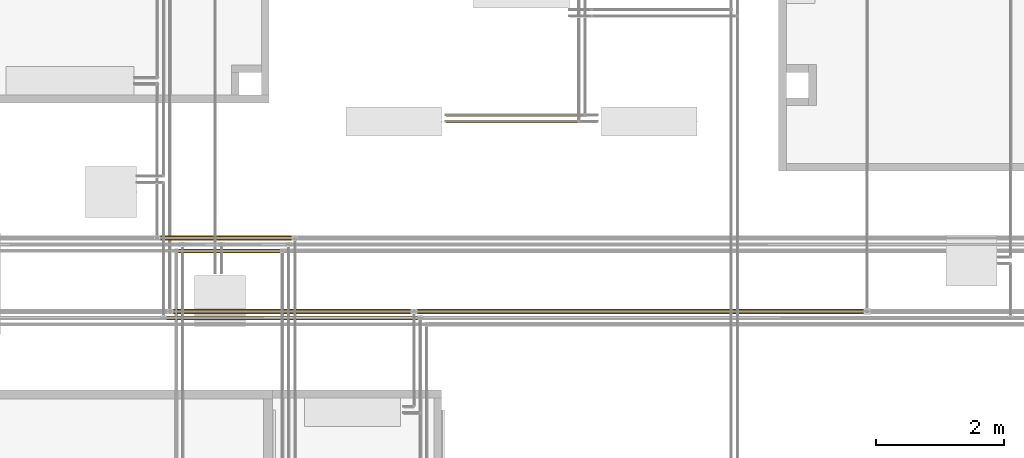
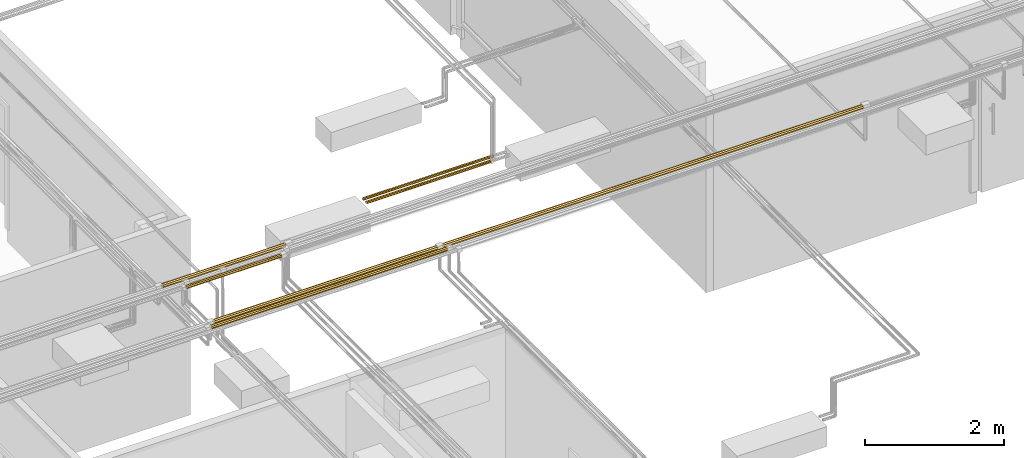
# One storey, part 97 of 652: 7 coverings.
"""IFC2X3 building model written with IfcOpenShell, lengths in millimetres."""

from ifc_helpers import new_model, entity, si_unit, converted_unit, direction, frame, origin, place, context, subcontext, project, spatial, faceted_brep, material, type_object, element, save


model = new_model("IFC2X3")

# Units and contexts
model_context = context("Model", 3, precision=0.01, world=frame((0.0, 0.0, 308426.39999999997)), true_north=direction((6.123233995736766e-17, 1.0)))
plan_context = context("Plan", 3, precision=0.01, world=frame((0.0, 0.0, 308426.39999999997)), true_north=direction((6.123233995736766e-17, 1.0)))
body_context = subcontext(model_context, "Body", "Model", "MODEL_VIEW")
ifc_project = project(units=[si_unit("LENGTHUNIT", "METRE", prefix="MILLI"), si_unit("AREAUNIT", "SQUARE_METRE"), si_unit("VOLUMEUNIT", "CUBIC_METRE"), converted_unit("PLANEANGLEUNIT", "DEGREE", entity("IfcPlaneAngleMeasure", 0.017453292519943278), si_unit("PLANEANGLEUNIT", "RADIAN"), dimensions=[0, 0, 0, 0, 0, 0, 0])], contexts=[model_context, plan_context])

# Site, building, storey
site_placement = place(None, origin())
site = spatial("IfcSite", under=ifc_project, at=site_placement, Name="Default", CompositionType="ELEMENT")
building_placement = place(site_placement, origin())
building = spatial("IfcBuilding", under=site, at=building_placement, CompositionType="ELEMENT")
storey_placement = place(building_placement, frame((0.0, 0.0, 1730.6999999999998)))
storey = spatial("IfcBuildingStorey", under=building, at=storey_placement, Name="EG_Produktion_FFB", CompositionType="ELEMENT", Elevation=1730.6999999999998)

# Coverings
ifc_material = material(Name="Dämmung - Armaflex-Schlauch")
covering_type = type_object("IfcCoveringType", Name="Rohrdämmung außen:Armaflex-Schlauch", PredefinedType="INSULATION")
covering_1_placement = place(storey_placement, frame((33765.74774999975, 59815.1172277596, 3865.1172277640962)))
element("IfcCovering", 1, at=covering_1_placement, inside=storey, type_object=covering_type, material=ifc_material, Name="Rohrdämmung außen:Armaflex-Schlauch", ObjectType="Rohrdämmung außen:Armaflex-Schlauch", PredefinedType="INSULATION", context=body_context, shape_type="Brep", body=[
    faceted_brep([(3928.5045000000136, 68.17027223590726, 34.88277223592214), (3928.5045000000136, 66.39261192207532, 39.17442387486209), (3928.5045000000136, 63.295430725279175, 46.651680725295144), (3928.5045000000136, 60.8580099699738, 52.536134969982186), (3928.5045000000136, 58.420589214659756, 58.42058921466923), (3928.5045000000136, 52.53613496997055, 60.858009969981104), (3928.5045000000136, 46.65168072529, 63.29543072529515), (3928.5045000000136, 40.76722648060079, 65.7328514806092), (3928.5045000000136, 34.88277223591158, 68.17027223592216), (3928.5045000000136, 30.59112059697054, 66.39261192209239), (3928.5045000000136, 23.113863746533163, 63.29543072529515), (3928.5045000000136, 17.229409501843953, 60.85800996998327), (3928.5045000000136, 11.344955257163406, 58.42058921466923), (3928.5045000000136, 8.907534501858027, 52.536134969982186), (3928.5045000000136, 6.470113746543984, 46.651680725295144), (3928.5045000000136, 4.032692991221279, 40.7672264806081), (3928.5045000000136, 1.5952722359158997, 34.88277223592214), (3928.5045000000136, 4.032692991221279, 28.998317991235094), (3928.5045000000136, 6.470113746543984, 23.113863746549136), (3928.5045000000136, 8.907534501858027, 17.22940950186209), (3928.5045000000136, 11.344955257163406, 11.344955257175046), (3928.5045000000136, 17.229409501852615, 8.907534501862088), (3928.5045000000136, 23.113863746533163, 6.470113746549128), (3928.5045000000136, 28.998317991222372, 4.032692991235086), (3928.5045000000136, 34.88277223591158, 1.5952722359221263), (3928.5045000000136, 39.17442387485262, 3.3729325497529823), (3928.5045000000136, 46.65168072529, 6.470113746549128), (3928.5045000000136, 52.53613496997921, 8.907534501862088), (3928.5045000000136, 58.420589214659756, 11.344955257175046), (3928.5045000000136, 60.85800996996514, 17.22940950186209), (3928.5045000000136, 63.295430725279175, 23.113863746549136), (3928.5045000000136, 65.73285148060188, 28.998317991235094), (0.0, 52.53613496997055, 8.90753450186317), (0.0, 46.65168072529, 6.470113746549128), (0.0, 40.76722648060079, 4.032692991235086), (0.0, 34.88277223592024, 1.595272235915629), (0.0, 26.299468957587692, 5.1505928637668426), (0.0, 18.822212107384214, 8.247774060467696), (0.0, 11.344955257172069, 11.34495525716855), (0.0, 8.907534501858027, 17.229409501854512), (0.0, 6.470113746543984, 23.113863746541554), (0.0, 4.0326929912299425, 28.9983179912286), (0.0, 1.5952722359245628, 34.88277223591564), (0.0, 5.150592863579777, 43.466075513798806), (0.0, 8.247774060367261, 50.94333236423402), (0.0, 11.344955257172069, 58.42058921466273), (0.0, 17.229409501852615, 60.85800996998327), (0.0, 23.113863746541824, 63.295430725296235), (0.0, 28.998317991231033, 65.7328514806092), (0.0, 34.88277223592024, 68.17027223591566), (0.0, 43.466075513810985, 64.61495160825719), (0.0, 50.9433323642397, 61.517770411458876), (0.0, 58.42058921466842, 58.42058921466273), (0.0, 60.8580099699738, 52.536134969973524), (0.0, 63.295430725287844, 46.65168072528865), (0.0, 65.73285148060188, 40.7672264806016), (0.0, 68.17027223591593, 34.88277223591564), (0.0, 64.61495160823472, 26.299468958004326), (0.0, 61.51777041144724, 18.822212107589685), (0.0, 58.42058921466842, 11.34495525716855)], [[[0, 1, 2, 3, 4, 5, 6, 7, 8, 9, 10, 11, 12, 13, 14, 15, 16, 17, 18, 19, 20, 21, 22, 23, 24, 25, 26, 27, 28, 29, 30, 31]], [[32, 33, 34, 35, 36, 37, 38, 39, 40, 41, 42, 43, 44, 45, 46, 47, 48, 49, 50, 51, 52, 53, 54, 55, 56, 57, 58, 59]], [[40, 39, 38, 20, 19, 18, 17, 16, 42, 41]], [[36, 35, 24, 23, 22, 21, 20, 38, 37]], [[33, 32, 59, 28, 27, 26, 25, 24, 35, 34]], [[28, 59, 58, 57, 56, 0, 31, 30, 29]], [[54, 53, 52, 4, 3, 2, 1, 0, 56, 55]], [[4, 52, 51, 50, 49, 8, 7, 6, 5]], [[47, 46, 45, 12, 11, 10, 9, 8, 49, 48]], [[12, 45, 44, 43, 42, 16, 15, 14, 13]]]),
])
covering_2_placement = place(storey_placement, frame((33957.04824999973, 60868.292227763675, 3868.292227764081)))
element("IfcCovering", 2, at=covering_2_placement, inside=storey, type_object=covering_type, material=ifc_material, Name="Rohrdämmung außen:Armaflex-Schlauch", ObjectType="Rohrdämmung außen:Armaflex-Schlauch", PredefinedType="INSULATION", context=body_context, shape_type="Brep", body=[
    faceted_brep([(0.0, 1.5952722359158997, 31.70777223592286), (0.0, 3.4896549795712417, 36.28121674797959), (0.0, 6.005145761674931, 42.354148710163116), (0.0, 8.210082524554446, 47.67733694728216), (0.0, 10.415019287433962, 53.000525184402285), (0.0, 15.738207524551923, 55.2054619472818), (0.0, 21.061395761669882, 57.4103987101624), (0.0, 26.384583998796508, 59.61533547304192), (0.0, 31.70777223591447, 61.82027223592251), (0.0, 36.28121674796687, 59.925889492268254), (0.0, 42.35414871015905, 57.4103987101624), (0.0, 47.67733694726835, 55.2054619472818), (0.0, 53.000525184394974, 53.000525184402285), (0.0, 55.20546194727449, 47.677336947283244), (0.0, 57.410398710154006, 42.354148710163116), (0.0, 59.615335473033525, 37.03096047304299), (0.0, 61.82027223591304, 31.70777223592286), (0.0, 59.615335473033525, 26.384583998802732), (0.0, 57.410398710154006, 21.061395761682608), (0.0, 55.20546194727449, 15.73820752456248), (0.0, 53.000525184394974, 10.415019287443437), (0.0, 47.67733694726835, 8.210082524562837), (0.0, 42.35414871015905, 6.005145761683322), (0.0, 37.03096047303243, 3.8002089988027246), (0.0, 31.70777223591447, 1.5952722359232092), (0.0, 27.134327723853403, 3.489654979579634), (0.0, 21.061395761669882, 6.005145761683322), (0.0, 15.738207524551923, 8.210082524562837), (0.0, 10.415019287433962, 10.415019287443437), (0.0, 8.210082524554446, 15.73820752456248), (0.0, 6.005145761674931, 21.061395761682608), (0.0, 3.8002089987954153, 26.384583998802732), (1585.9034999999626, 15.738207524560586, 8.210082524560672), (1585.9034999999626, 21.061395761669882, 6.005145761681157), (1585.9034999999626, 26.384583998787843, 3.800208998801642), (1585.9034999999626, 31.70777223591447, 1.595272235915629), (1585.9034999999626, 40.85466126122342, 5.384037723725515), (1585.9034999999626, 46.92759322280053, 7.899528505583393), (1585.9034999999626, 53.000525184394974, 10.415019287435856), (1585.9034999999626, 55.20546194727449, 15.738207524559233), (1585.9034999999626, 57.410398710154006, 21.061395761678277), (1585.9034999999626, 59.615335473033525, 26.384583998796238), (1585.9034999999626, 61.82027223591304, 31.707772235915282), (1585.9034999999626, 58.031506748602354, 40.85466126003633), (1585.9034999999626, 55.516015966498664, 46.92759322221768), (1585.9034999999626, 53.000525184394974, 53.000525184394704), (1585.9034999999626, 47.67733694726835, 55.20546194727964), (1585.9034999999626, 42.35414871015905, 57.41039871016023), (1585.903499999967, 37.03096047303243, 59.61533547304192), (1585.9034999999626, 31.70777223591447, 61.820272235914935), (1585.9034999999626, 22.560883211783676, 58.03150674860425), (1585.9034999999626, 16.48795124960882, 55.51601596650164), (1585.9034999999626, 10.415019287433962, 53.000525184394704), (1585.9034999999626, 8.210082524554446, 47.67733694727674), (1585.9034999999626, 6.005145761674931, 42.354148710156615), (1585.9034999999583, 3.8002089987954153, 37.03096047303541), (1585.9034999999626, 1.5952722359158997, 31.707772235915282), (1585.9034999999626, 5.384037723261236, 22.560883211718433), (1585.9034999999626, 7.8995285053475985, 16.48795124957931), (1585.9034999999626, 10.415019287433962, 10.415019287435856)], [[[0, 1, 2, 3, 4, 5, 6, 7, 8, 9, 10, 11, 12, 13, 14, 15, 16, 17, 18, 19, 20, 21, 22, 23, 24, 25, 26, 27, 28, 29, 30, 31]], [[32, 33, 34, 35, 36, 37, 38, 39, 40, 41, 42, 43, 44, 45, 46, 47, 48, 49, 50, 51, 52, 53, 54, 55, 56, 57, 58, 59]], [[40, 39, 38, 20, 19, 18, 17, 16, 42, 41]], [[36, 35, 24, 23, 22, 21, 20, 38, 37]], [[33, 32, 59, 28, 27, 26, 25, 24, 35, 34]], [[28, 59, 58, 57, 56, 0, 31, 30, 29]], [[54, 53, 52, 4, 3, 2, 1, 0, 56, 55]], [[4, 52, 51, 50, 49, 8, 7, 6, 5]], [[47, 46, 45, 12, 11, 10, 9, 8, 49, 48]], [[12, 45, 44, 43, 42, 16, 15, 14, 13]]]),
])
covering_3_placement = place(storey_placement, frame((37694.44724999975, 59911.942227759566, 3861.942227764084)))
element("IfcCovering", 3, at=covering_3_placement, inside=storey, type_object=covering_type, material=ifc_material, Name="Rohrdämmung außen:Armaflex-Schlauch", ObjectType="Rohrdämmung außen:Armaflex-Schlauch", PredefinedType="INSULATION", context=body_context, shape_type="Brep", body=[
    faceted_brep([(0.0, 1.5952722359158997, 38.057772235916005), (0.0, 3.8881763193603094, 43.593332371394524), (0.0, 6.935081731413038, 50.949212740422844), (0.0, 9.604986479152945, 57.39493299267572), (0.0, 12.274891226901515, 63.84065324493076), (0.0, 18.72061147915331, 66.51055799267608), (0.0, 25.166331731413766, 69.18046274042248), (0.0, 31.612051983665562, 71.85036748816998), (0.0, 38.057772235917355, 74.52027223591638), (0.0, 43.59333237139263, 72.22736815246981), (0.0, 50.94921274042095, 69.18046274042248), (0.0, 57.39493299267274, 66.51055799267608), (0.0, 63.8406532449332, 63.84065324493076), (0.0, 66.51055799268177, 57.39493299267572), (0.0, 69.18046274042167, 50.949212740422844), (0.0, 71.85036748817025, 44.50349248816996), (0.0, 74.52027223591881, 38.057772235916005), (0.0, 71.85036748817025, 31.61205198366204), (0.0, 69.18046274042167, 25.166331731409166), (0.0, 66.51055799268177, 18.720611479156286), (0.0, 63.8406532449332, 12.274891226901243), (0.0, 57.394932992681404, 9.604986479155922), (0.0, 50.94921274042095, 6.935081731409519), (0.0, 44.50349248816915, 4.265176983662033), (0.0, 38.057772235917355, 1.595272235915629), (0.0, 32.52221210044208, 3.8881763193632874), (0.0, 25.166331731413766, 6.935081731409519), (0.0, 18.72061147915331, 9.604986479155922), (0.0, 12.274891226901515, 12.274891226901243), (0.0, 9.604986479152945, 18.720611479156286), (0.0, 6.935081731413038, 25.166331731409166), (0.0, 4.265176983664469, 31.61205198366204), (6983.417933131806, 18.72061147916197, 9.604986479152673), (6983.417933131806, 25.166331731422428, 6.935081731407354), (6983.417933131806, 31.61205198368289, 4.265176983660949), (6983.417933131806, 38.057772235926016, 1.595272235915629), (6983.417933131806, 49.12889250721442, 6.181080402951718), (6983.417933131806, 56.48477287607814, 9.22798581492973), (6983.417933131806, 63.84065324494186, 12.274891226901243), (6983.417933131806, 66.51055799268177, 18.720611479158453), (6983.417933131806, 69.18046274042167, 25.16633173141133), (6983.417933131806, 71.8503674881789, 31.61205198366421), (6983.417933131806, 74.52027223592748, 38.057772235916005), (6983.417933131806, 69.93446406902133, 49.12889250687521), (6983.417933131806, 66.88755865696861, 56.484772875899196), (6983.417933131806, 63.84065324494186, 63.84065324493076), (6983.417933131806, 57.39493299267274, 66.51055799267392), (6983.417933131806, 50.94921274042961, 69.18046274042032), (6983.417933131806, 44.50349248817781, 71.85036748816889), (6983.417933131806, 38.057772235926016, 74.52027223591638), (6983.417933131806, 26.986651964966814, 69.93446406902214), (6983.417933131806, 19.630771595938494, 66.88755865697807), (6983.417933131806, 12.274891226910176, 63.84065324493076), (6983.417933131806, 9.604986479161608, 57.39493299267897), (6983.417933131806, 6.935081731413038, 50.949212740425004), (6983.417933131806, 4.265176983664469, 44.50349248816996), (6983.417933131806, 1.5952722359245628, 38.057772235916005), (6983.417933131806, 6.181080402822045, 26.98665196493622), (6983.417933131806, 9.227985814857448, 19.630771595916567), (6983.417933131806, 12.274891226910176, 12.274891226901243)], [[[0, 1, 2, 3, 4, 5, 6, 7, 8, 9, 10, 11, 12, 13, 14, 15, 16, 17, 18, 19, 20, 21, 22, 23, 24, 25, 26, 27, 28, 29, 30, 31]], [[32, 33, 34, 35, 36, 37, 38, 39, 40, 41, 42, 43, 44, 45, 46, 47, 48, 49, 50, 51, 52, 53, 54, 55, 56, 57, 58, 59]], [[40, 39, 38, 20, 19, 18, 17, 16, 42, 41]], [[36, 35, 24, 23, 22, 21, 20, 38, 37]], [[33, 32, 59, 28, 27, 26, 25, 24, 35, 34]], [[28, 59, 58, 57, 56, 0, 31, 30, 29]], [[54, 53, 52, 4, 3, 2, 1, 0, 56, 55]], [[4, 52, 51, 50, 49, 8, 7, 6, 5]], [[47, 46, 45, 12, 11, 10, 9, 8, 49, 48]], [[12, 45, 44, 43, 42, 16, 15, 14, 13]]]),
])
covering_4_placement = place(storey_placement, frame((33674.44724999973, 61061.94222776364, 3861.9422277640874)))
element("IfcCovering", 4, at=covering_4_placement, inside=storey, type_object=covering_type, material=ifc_material, Name="Rohrdämmung außen:Armaflex-Schlauch", ObjectType="Rohrdämmung außen:Armaflex-Schlauch", PredefinedType="INSULATION", context=body_context, shape_type="Brep", body=[
    faceted_brep([(0.0, 1.5952722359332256, 38.057772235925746), (0.0, 3.546940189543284, 42.76951547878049), (0.0, 6.9350817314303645, 50.949212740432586), (0.0, 9.60498647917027, 57.39493299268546), (0.0, 12.27489122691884, 63.840653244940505), (0.0, 18.720611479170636, 66.51055799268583), (0.0, 25.166331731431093, 69.18046274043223), (0.0, 31.61205198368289, 71.85036748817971), (0.0, 38.057772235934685, 74.52027223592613), (0.0, 42.76951547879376, 72.56860428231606), (0.0, 50.94921274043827, 69.18046274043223), (0.0, 57.39493299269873, 66.51055799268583), (0.0, 63.84065324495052, 63.840653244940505), (0.0, 66.51055799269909, 57.39493299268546), (0.0, 69.180462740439, 50.949212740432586), (0.0, 71.85036748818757, 44.50349248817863), (0.0, 74.52027223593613, 38.057772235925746), (0.0, 71.85036748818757, 31.612051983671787), (0.0, 69.180462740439, 25.16633173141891), (0.0, 66.51055799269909, 18.72061147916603), (0.0, 63.84065324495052, 12.27489122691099), (0.0, 57.394932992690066, 9.60498647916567), (0.0, 50.94921274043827, 6.935081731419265), (0.0, 44.50349248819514, 4.265176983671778), (0.0, 38.057772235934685, 1.5952722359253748), (0.0, 33.346028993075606, 3.5469401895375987), (0.0, 25.166331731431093, 6.935081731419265), (0.0, 18.720611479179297, 9.60498647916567), (0.0, 12.27489122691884, 12.27489122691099), (0.0, 9.604986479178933, 18.72061147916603), (0.0, 6.9350817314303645, 25.16633173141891), (0.0, 4.265176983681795, 31.612051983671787), (2051.105499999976, 18.720611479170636, 9.604986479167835), (2051.10549999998, 25.166331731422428, 6.935081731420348), (2051.105499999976, 31.612051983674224, 4.265176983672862), (2051.105499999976, 38.057772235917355, 1.595272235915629), (2051.10549999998, 47.48125872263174, 5.498608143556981), (2051.10549999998, 55.66095598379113, 8.88674968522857), (2051.105499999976, 63.8406532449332, 12.274891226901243), (2051.105499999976, 66.51055799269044, 18.72061147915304), (2051.105499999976, 69.180462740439, 25.166331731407), (2051.105499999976, 71.85036748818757, 31.61205198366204), (2051.105499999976, 74.52027223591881, 38.057772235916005), (2051.1054999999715, 70.61693632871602, 47.48125872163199), (2051.1054999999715, 67.22879478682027, 55.66095598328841), (2051.105499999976, 63.8406532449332, 63.84065324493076), (2051.105499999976, 57.394932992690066, 66.51055799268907), (2051.105499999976, 50.94921274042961, 69.1804627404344), (2051.105499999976, 44.50349248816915, 71.85036748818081), (2051.105499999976, 38.057772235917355, 74.52027223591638), (2051.10549999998, 28.634285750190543, 70.61693632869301), (2051.1054999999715, 20.45458848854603, 67.22879478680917), (2051.105499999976, 12.274891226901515, 63.84065324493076), (2051.105499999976, 9.604986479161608, 57.39493299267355), (2051.105499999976, 6.935081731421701, 50.94921274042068), (2051.105499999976, 4.265176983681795, 44.50349248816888), (2051.105499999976, 1.5952722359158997, 38.057772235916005), (2051.105499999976, 5.498608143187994, 28.634285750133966), (2051.10549999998, 8.886749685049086, 20.454588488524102), (2051.105499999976, 12.274891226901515, 12.274891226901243)], [[[0, 1, 2, 3, 4, 5, 6, 7, 8, 9, 10, 11, 12, 13, 14, 15, 16, 17, 18, 19, 20, 21, 22, 23, 24, 25, 26, 27, 28, 29, 30, 31]], [[32, 33, 34, 35, 36, 37, 38, 39, 40, 41, 42, 43, 44, 45, 46, 47, 48, 49, 50, 51, 52, 53, 54, 55, 56, 57, 58, 59]], [[40, 39, 38, 20, 19, 18, 17, 16, 42, 41]], [[36, 35, 24, 23, 22, 21, 20, 38, 37]], [[33, 32, 59, 28, 27, 26, 25, 24, 35, 34]], [[28, 59, 58, 57, 56, 0, 31, 30, 29]], [[54, 53, 52, 4, 3, 2, 1, 0, 56, 55]], [[4, 52, 51, 50, 49, 8, 7, 6, 5]], [[47, 46, 45, 12, 11, 10, 9, 8, 49, 48]], [[12, 45, 44, 43, 42, 16, 15, 14, 13]]]),
])
covering_5_placement = place(storey_placement, frame((33874.44724999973, 59911.942227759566, 3938.057772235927)))
element("IfcCovering", 5, at=covering_5_placement, inside=storey, type_object=covering_type, material=ifc_material, Name="Rohrdämmung außen:Armaflex-Schlauch", ObjectType="Rohrdämmung außen:Armaflex-Schlauch", PredefinedType="INSULATION", context=body_context, shape_type="Brep", body=[
    faceted_brep([(0.0, 1.5952722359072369, -38.057772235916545), (0.0, 3.7526223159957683, -32.849468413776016), (0.0, 6.935081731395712, -25.166331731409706), (0.0, 9.604986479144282, -18.72061147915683), (0.0, 12.274891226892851, -12.274891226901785), (0.0, 18.720611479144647, -9.604986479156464), (0.0, 25.16633173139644, -6.935081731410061), (0.0, 31.612051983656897, -4.265176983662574), (0.0, 38.05777223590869, -1.5952722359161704), (0.0, 43.26607605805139, -3.7526223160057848), (0.0, 50.94921274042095, -6.935081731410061), (0.0, 57.39493299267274, -9.604986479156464), (0.0, 63.84065324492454, -12.274891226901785), (0.0, 66.5105579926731, -18.720611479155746), (0.0, 69.180462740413, -25.16633173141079), (0.0, 71.85036748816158, -31.612051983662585), (0.0, 74.52027223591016, -38.057772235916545), (0.0, 71.85036748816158, -44.50349248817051), (0.0, 69.18046274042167, -50.949212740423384), (0.0, 66.5105579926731, -57.39493299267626), (0.0, 63.84065324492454, -63.8406532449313), (0.0, 57.39493299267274, -66.51055799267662), (0.0, 50.94921274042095, -69.18046274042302), (0.0, 44.50349248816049, -71.85036748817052), (0.0, 38.05777223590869, -74.52027223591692), (0.0, 32.849468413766, -72.36292215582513), (0.0, 25.16633173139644, -69.18046274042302), (0.0, 18.720611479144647, -66.51055799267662), (0.0, 12.274891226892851, -63.8406532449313), (0.0, 9.604986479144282, -57.39493299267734), (0.0, 6.935081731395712, -50.949212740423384), (0.0, 4.265176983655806, -44.50349248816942), (3711.1055000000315, 18.72061147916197, -66.51055799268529), (3711.1055000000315, 25.166331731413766, -69.18046274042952), (3711.1055000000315, 31.612051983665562, -71.85036748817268), (3711.1055000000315, 38.057772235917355, -74.52027223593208), (3711.1055000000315, 48.474379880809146, -70.20557207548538), (3711.1055000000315, 56.15751656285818, -67.02311266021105), (3711.1055000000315, 63.8406532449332, -63.840653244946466), (3711.1055000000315, 66.5105579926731, -57.394932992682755), (3711.1055000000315, 69.18046274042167, -50.949212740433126), (3711.1055000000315, 71.85036748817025, -44.50349248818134), (3711.1055000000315, 74.52027223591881, -38.0577722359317), (3711.1055000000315, 70.20557207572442, -27.641164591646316), (3711.1055000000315, 67.02311266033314, -19.95802790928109), (3711.1055000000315, 63.8406532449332, -12.274891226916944), (3711.1055000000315, 57.39493299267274, -9.604986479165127), (3711.1055000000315, 50.94921274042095, -6.935081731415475), (3711.1055000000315, 44.50349248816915, -4.265176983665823), (3711.1055000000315, 38.057772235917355, -1.5952722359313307), (3711.1055000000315, 27.64116459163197, -5.909972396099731), (3711.1055000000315, 19.95802790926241, -9.092431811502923), (3711.1055000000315, 12.274891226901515, -12.274891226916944), (3711.1055000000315, 9.604986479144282, -18.720611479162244), (3711.1055000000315, 6.935081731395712, -25.16633173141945), (3711.1055000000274, 4.265176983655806, -31.612051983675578), (3711.1055000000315, 1.5952722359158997, -38.0577722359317), (3711.1055000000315, 5.909972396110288, -48.474379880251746), (3711.1055000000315, 9.092431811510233, -56.15751656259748), (3711.1055000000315, 12.274891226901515, -63.840653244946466)], [[[0, 1, 2, 3, 4, 5, 6, 7, 8, 9, 10, 11, 12, 13, 14, 15, 16, 17, 18, 19, 20, 21, 22, 23, 24, 25, 26, 27, 28, 29, 30, 31]], [[32, 33, 34, 35, 36, 37, 38, 39, 40, 41, 42, 43, 44, 45, 46, 47, 48, 49, 50, 51, 52, 53, 54, 55, 56, 57, 58, 59]], [[40, 39, 38, 20, 19, 18, 17, 16, 42, 41]], [[36, 35, 24, 23, 22, 21, 20, 38, 37]], [[33, 32, 59, 28, 27, 26, 25, 24, 35, 34]], [[28, 59, 58, 57, 56, 0, 31, 30, 29]], [[54, 53, 52, 4, 3, 2, 1, 0, 56, 55]], [[4, 52, 51, 50, 49, 8, 7, 6, 5]], [[47, 46, 45, 12, 11, 10, 9, 8, 49, 48]], [[12, 45, 44, 43, 42, 16, 15, 14, 13]]]),
])
covering_6_placement = place(storey_placement, frame((38140.350749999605, 62899.64222776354, 2674.6422277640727)))
element("IfcCovering", 6, at=covering_6_placement, inside=storey, type_object=covering_type, material=ifc_material, Name="Rohrdämmung außen:Armaflex-Schlauch", ObjectType="Rohrdämmung außen:Armaflex-Schlauch", PredefinedType="INSULATION", context=body_context, shape_type="Brep", body=[
    faceted_brep([(2060.0, 49.12027223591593, 25.35777223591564), (2060.0, 47.07559276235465, 30.294065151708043), (2060.0, 45.64033467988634, 33.759084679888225), (2060.0, 43.90036590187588, 37.95974090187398), (2060.0, 42.160397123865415, 42.16039712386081), (2060.0, 37.95974090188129, 43.90036590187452), (2060.0, 33.759084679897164, 45.640334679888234), (2060.0, 29.55842845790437, 47.380303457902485), (2060.0, 25.357772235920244, 49.12027223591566), (2060.0, 20.42147932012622, 47.07559276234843), (2060.0, 16.956459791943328, 45.640334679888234), (2060.0, 12.755803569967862, 43.90036590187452), (2060.0, 8.55514734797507, 42.16039712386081), (2060.0, 6.81517856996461, 37.95974090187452), (2060.0, 5.075209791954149, 33.759084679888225), (2060.0, 3.335241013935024, 29.558428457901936), (2060.0, 1.5952722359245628, 25.35777223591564), (2060.0, 3.335241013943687, 21.157116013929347), (2060.0, 5.075209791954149, 16.956459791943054), (2060.0, 6.81517856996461, 12.755803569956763), (2060.0, 8.55514734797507, 8.55514734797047), (2060.0, 12.755803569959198, 6.8151785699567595), (2060.0, 16.956459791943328, 5.075209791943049), (2060.0, 21.157116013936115, 3.335241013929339), (2060.0, 25.357772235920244, 1.595272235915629), (2060.0, 30.294065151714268, 3.6399517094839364), (2060.0, 33.759084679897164, 5.075209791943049), (2060.0, 37.95974090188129, 6.8151785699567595), (2060.0, 42.160397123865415, 8.55514734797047), (2060.0, 43.90036590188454, 12.755803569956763), (2060.0, 45.64033467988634, 16.956459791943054), (2060.0, 47.3803034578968, 21.157116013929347), (0.0, 37.95974090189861, 6.815178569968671), (0.0, 33.75908467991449, 5.0752097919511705), (0.0, 29.55842845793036, 3.3352410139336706), (0.0, 25.357772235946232, 1.5952722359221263), (0.0, 20.421479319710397, 3.6399517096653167), (0.0, 15.485186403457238, 5.684631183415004), (0.0, 8.55514734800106, 8.555147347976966), (0.0, 6.81517856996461, 12.755803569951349), (0.0, 5.075209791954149, 16.95645979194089), (0.0, 3.335241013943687, 21.157116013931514), (0.0, 1.5952722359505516, 25.357772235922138), (0.0, 3.639951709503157, 30.294065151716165), (0.0, 5.684631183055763, 35.2303580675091), (0.0, 8.55514734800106, 42.16039712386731), (0.0, 12.755803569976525, 43.90036590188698), (0.0, 16.956459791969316, 45.640334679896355), (0.0, 21.157116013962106, 47.38030345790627), (0.0, 25.357772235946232, 49.12027223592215), (0.0, 30.29406515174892, 47.07559276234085), (0.0, 35.230358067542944, 45.030913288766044), (0.0, 42.16039712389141, 42.16039712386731), (0.0, 43.90036590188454, 37.959740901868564), (0.0, 45.640334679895, 33.759084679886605), (0.0, 47.38030345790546, 29.5584284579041), (0.0, 49.12027223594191, 25.357772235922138), (0.0, 47.07559276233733, 20.421479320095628), (0.0, 45.0309132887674, 15.485186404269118), (0.0, 42.16039712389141, 8.555147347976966)], [[[0, 1, 2, 3, 4, 5, 6, 7, 8, 9, 10, 11, 12, 13, 14, 15, 16, 17, 18, 19, 20, 21, 22, 23, 24, 25, 26, 27, 28, 29, 30, 31]], [[32, 33, 34, 35, 36, 37, 38, 39, 40, 41, 42, 43, 44, 45, 46, 47, 48, 49, 50, 51, 52, 53, 54, 55, 56, 57, 58, 59]], [[40, 39, 38, 20, 19, 18, 17, 16, 42, 41]], [[38, 37, 36, 35, 24, 23, 22, 21, 20]], [[56, 0, 31, 30, 29, 28, 59, 58, 57]], [[27, 26, 25, 24, 35, 34, 33, 32, 59, 28]], [[49, 8, 7, 6, 5, 4, 52, 51, 50]], [[3, 2, 1, 0, 56, 55, 54, 53, 52, 4]], [[42, 16, 15, 14, 13, 12, 45, 44, 43]], [[11, 10, 9, 8, 49, 48, 47, 46, 45, 12]]]),
])
covering_7_placement = place(storey_placement, frame((38140.35074999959, 62999.64222776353, 2674.642227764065)))
element("IfcCovering", 7, at=covering_7_placement, inside=storey, type_object=covering_type, material=ifc_material, Name="Rohrdämmung außen:Armaflex-Schlauch", ObjectType="Rohrdämmung außen:Armaflex-Schlauch", PredefinedType="INSULATION", context=body_context, shape_type="Brep", body=[
    faceted_brep([(2160.0, 49.12027223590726, 25.357772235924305), (2160.0, 47.17025384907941, 30.065533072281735), (2160.0, 45.640334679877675, 33.75908467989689), (2160.0, 43.90036590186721, 37.95974090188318), (2160.0, 42.160397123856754, 42.16039712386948), (2160.0, 37.95974090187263, 43.900365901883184), (2160.0, 33.759084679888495, 45.640334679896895), (2160.0, 29.55842845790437, 47.38030345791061), (2160.0, 25.35777223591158, 49.12027223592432), (2160.0, 20.65001139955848, 47.17025384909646), (2160.0, 15.942250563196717, 45.220235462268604), (2160.0, 8.55514734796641, 42.16039712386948), (2160.0, 6.815178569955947, 37.95974090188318), (2160.0, 5.075209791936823, 33.75908467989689), (2160.0, 3.3352410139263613, 29.558428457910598), (2160.0, 1.5952722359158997, 25.357772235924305), (2160.0, 3.3352410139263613, 21.157116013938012), (2160.0, 5.075209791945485, 16.95645979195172), (2160.0, 6.81517856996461, 12.755803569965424), (2160.0, 8.55514734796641, 8.555147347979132), (2160.0, 12.755803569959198, 6.815178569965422), (2160.0, 16.956459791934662, 5.075209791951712), (2160.0, 21.15711601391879, 3.335241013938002), (2160.0, 25.35777223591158, 1.595272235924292), (2160.0, 30.065533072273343, 3.5452906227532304), (2160.0, 33.759084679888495, 5.075209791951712), (2160.0, 37.95974090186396, 6.815178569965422), (2160.0, 42.160397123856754, 8.555147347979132), (2160.0, 43.90036590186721, 12.755803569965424), (2160.0, 45.640334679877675, 16.95645979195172), (2160.0, 47.3803034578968, 21.157116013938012), (0.0, 37.95974090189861, 6.815178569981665), (0.0, 33.75908467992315, 5.075209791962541), (0.0, 29.558428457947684, 3.3352410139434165), (0.0, 25.35777223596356, 1.595272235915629), (0.0, 20.650011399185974, 3.545290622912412), (0.0, 15.942250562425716, 5.495309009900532), (0.0, 8.555147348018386, 8.55514734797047), (0.0, 6.8151785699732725, 12.75580356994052), (0.0, 5.075209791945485, 16.956459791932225), (0.0, 3.335241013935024, 21.157116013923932), (0.0, 1.5952722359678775, 25.35777223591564), (0.0, 3.5452906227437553, 30.065533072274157), (0.0, 5.495309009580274, 34.77329390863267), (0.0, 8.555147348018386, 42.16039712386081), (0.0, 12.755803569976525, 43.90036590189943), (0.0, 16.956459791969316, 45.640334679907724), (0.0, 21.157116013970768, 47.38030345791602), (0.0, 25.35777223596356, 49.12027223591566), (0.0, 30.065533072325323, 47.170253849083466), (0.0, 34.77329390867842, 45.22023546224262), (0.0, 42.16039712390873, 42.16039712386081), (0.0, 43.900365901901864, 37.959740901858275), (0.0, 45.640334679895, 33.7590846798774), (0.0, 47.38030345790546, 29.558428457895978), (0.0, 49.12027223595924, 25.35777223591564), (0.0, 47.17025384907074, 20.650011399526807), (0.0, 45.22023546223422, 15.942250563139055), (0.0, 42.16039712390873, 8.55514734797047)], [[[0, 1, 2, 3, 4, 5, 6, 7, 8, 9, 10, 11, 12, 13, 14, 15, 16, 17, 18, 19, 20, 21, 22, 23, 24, 25, 26, 27, 28, 29, 30]], [[31, 32, 33, 34, 35, 36, 37, 38, 39, 40, 41, 42, 43, 44, 45, 46, 47, 48, 49, 50, 51, 52, 53, 54, 55, 56, 57, 58]], [[39, 38, 37, 19, 18, 17, 16, 15, 41, 40]], [[37, 36, 35, 34, 23, 22, 21, 20, 19]], [[55, 0, 30, 29, 28, 27, 58, 57, 56]], [[26, 25, 24, 23, 34, 33, 32, 31, 58, 27]], [[48, 8, 7, 6, 5, 4, 51, 50, 49]], [[3, 2, 1, 0, 55, 54, 53, 52, 51, 4]], [[11, 10, 9, 8, 48, 47, 46, 45, 44]], [[43, 42, 41, 15, 14, 13, 12, 11, 44]]]),
])

save(model, "model.ifc")
